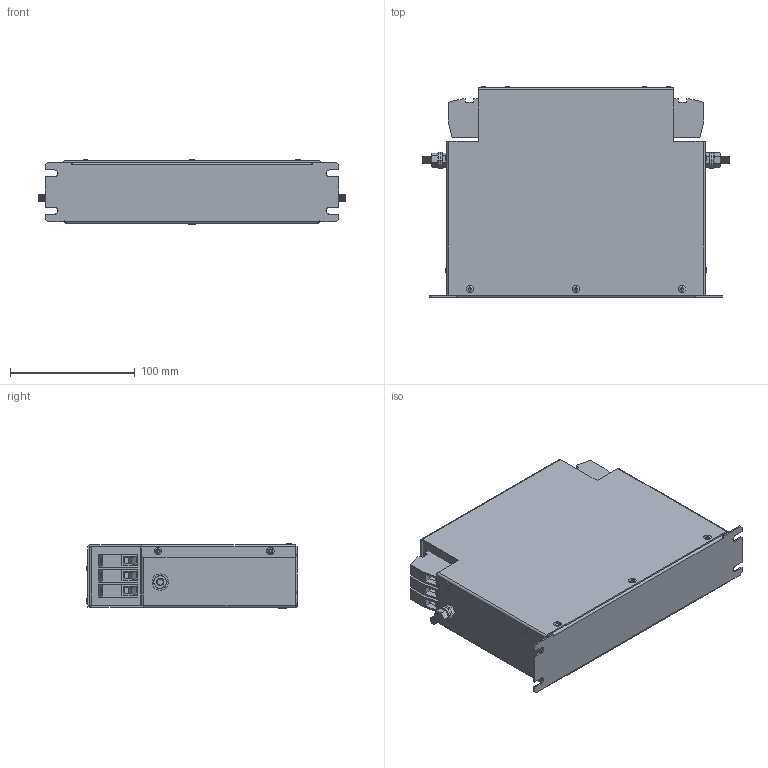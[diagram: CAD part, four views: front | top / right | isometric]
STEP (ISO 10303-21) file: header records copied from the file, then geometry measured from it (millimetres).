
FILE_DESCRIPTION (( 'STEP AP203' ), '1' );
FILE_NAME ('NF-CF-40 (D size).STEP', '2025-02-26T17:26:06', ( '' ), ( '' ), 'SwSTEP 2.0', 'SolidWorks 2017', '' );
FILE_SCHEMA (( 'CONFIG_CONTROL_DESIGN' ));
Length unit declared in the file: millimetre
Products named in the file (10): hex nut style 1_am_B18.2.4.1M - Hex nut, Style 1,  M6 x 1 --D-N; 3.5mm Rivet; NF-CF-40 (D case); M4 Stand-off 2mm; HDFK-10; NF-CF-40 (D lid); flat washer narrow_am_B18.22M - Plain washer, 6 mm, narrow; NF-CF-40 (D size); hex screw_am (dont use)_B18.6.7M - M6 x 1.0 x 16 Indented HHMS --16S; M6x16 Earth post
Assembly tree (26 placements, depth 3):
  NF-CF-40 (D size)
    NF-CF-40 (D case)
    NF-CF-40 (D lid)
    3.5mm Rivet  x11
    HDFK-10  x6
    M6x16 Earth post  x2
      flat washer narrow_am_B18.22M - Plain washer, 6 mm, narrow
      hex nut style 1_am_B18.2.4.1M - Hex nut, Style 1,  M6 x 1 --D-N
      hex screw_am (dont use)_B18.6.7M - M6 x 1.0 x 16 Indented HHMS --16S
    M4 Stand-off 2mm
Bounding box: 246 x 169 x 51.9 mm (x, y, z)
Volume: 167830.1 mm3; surface area: 241250.7 mm2
Topology: 34 solids, 34 shells, 990 faces, 2292 edges, 1422 vertices
Faces by surface type: plane 522, cylinder 250, cone 196, torus 22
Entity records: 15504 total; most frequent: CARTESIAN_POINT 2534, DIRECTION 2502, ORIENTED_EDGE 2296, EDGE_CURVE 1148, AXIS2_PLACEMENT_3D 888, LINE 726, VECTOR 726, VERTEX_POINT 704
